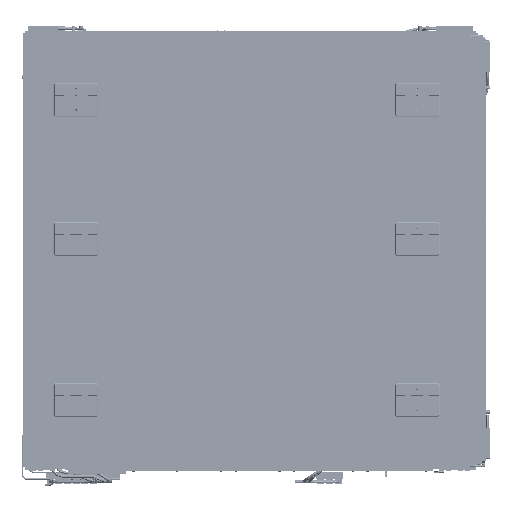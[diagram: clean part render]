
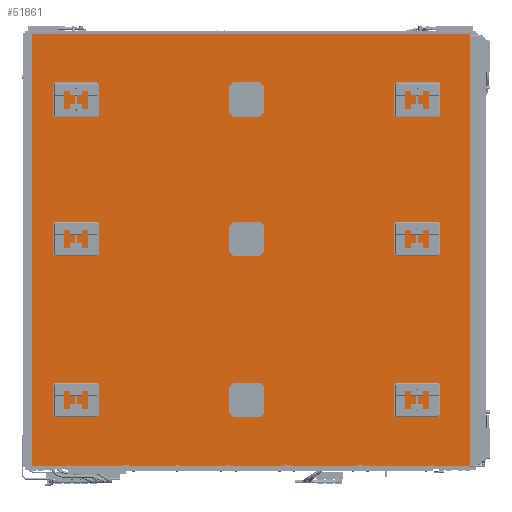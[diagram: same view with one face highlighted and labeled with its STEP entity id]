
A CAD part, front view. The second image highlights one B-rep face of the part: STEP entity #51861.
In plain terms, the highlighted planar face has unit normal (0, -1, 0).
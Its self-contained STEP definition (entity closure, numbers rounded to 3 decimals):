
#51861=ADVANCED_FACE('',(#74255),#63038,.T.);
#63038=PLANE('',#276296);
#74255=FACE_OUTER_BOUND('',#91489,.T.);
#91489=EDGE_LOOP('',(#141783,#141784,#141785,#141786));
#141783=ORIENTED_EDGE('',*,*,#212363,.T.);
#141784=ORIENTED_EDGE('',*,*,#212359,.T.);
#141785=ORIENTED_EDGE('',*,*,#212364,.F.);
#141786=ORIENTED_EDGE('',*,*,#212365,.T.);
#183257=VERTEX_POINT('',#428064);
#183258=VERTEX_POINT('',#428065);
#183261=VERTEX_POINT('',#428073);
#183262=VERTEX_POINT('',#428075);
#212359=EDGE_CURVE('',#183257,#183258,#238675,.T.);
#212363=EDGE_CURVE('',#183261,#183257,#238679,.T.);
#212364=EDGE_CURVE('',#183262,#183258,#238680,.T.);
#212365=EDGE_CURVE('',#183262,#183261,#238681,.T.);
#238675=LINE('',#428063,#255698);
#238679=LINE('',#428072,#255702);
#238680=LINE('',#428074,#255703);
#238681=LINE('',#428076,#255704);
#255698=VECTOR('',#327325,1.);
#255702=VECTOR('',#327331,1.);
#255703=VECTOR('',#327332,1.);
#255704=VECTOR('',#327333,1.);
#276296=AXIS2_PLACEMENT_3D('',#428077,#327334,#327335);
#327325=DIRECTION('',(-1.,0.,0.));
#327331=DIRECTION('',(0.,0.,1.));
#327332=DIRECTION('',(0.,0.,1.));
#327333=DIRECTION('',(1.,0.,0.));
#327334=DIRECTION('',(0.,-1.,0.));
#327335=DIRECTION('',(0.,0.,-1.));
#428063=CARTESIAN_POINT('',(180.3,4980.5,-4090.));
#428064=CARTESIAN_POINT('',(1461.3,4980.5,-4090.));
#428065=CARTESIAN_POINT('',(-1100.7,4980.5,-4090.));
#428072=CARTESIAN_POINT('',(1461.3,4980.5,-6577.));
#428073=CARTESIAN_POINT('',(1461.3,4980.5,-6577.));
#428074=CARTESIAN_POINT('',(-1100.7,4980.5,-6577.));
#428075=CARTESIAN_POINT('',(-1100.7,4980.5,-6577.));
#428076=CARTESIAN_POINT('',(180.3,4980.5,-6577.));
#428077=CARTESIAN_POINT('',(180.3,4980.5,-6577.));
